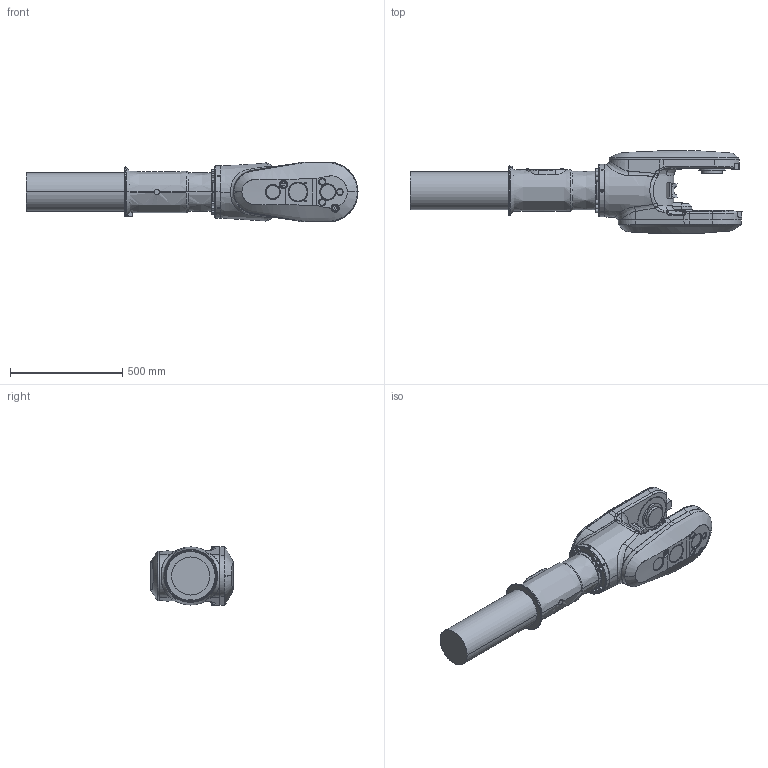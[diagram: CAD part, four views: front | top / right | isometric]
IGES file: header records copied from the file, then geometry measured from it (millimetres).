
Start section: SolidWorks IGES file using analytic representation for surfaces
Global section: file name: C:\Users\seamsto1\Desktop\Lättvikt\IRB6710_210kg-265_OC_00_SW_J\IRB6710_210kg-265_OC_00_IGES_J\IRB6710_210kg-265_OC_00_LINK04_CAD.IGS; native system: SolidWorks 2020; preprocessor: SolidWorks 2020; author: SEAMSTO1; date: 230510.112805; units: millimetre
Bounding box: 1478.63 x 368.88 x 267.05 mm (x, y, z)
Surface area: 1313030.3 mm2 (no closed solid volume)
Topology: 0 solids, 0 shells, 700 faces, 12111 edges, 12091 vertices
Faces by surface type: bspline 373, revolution 327
